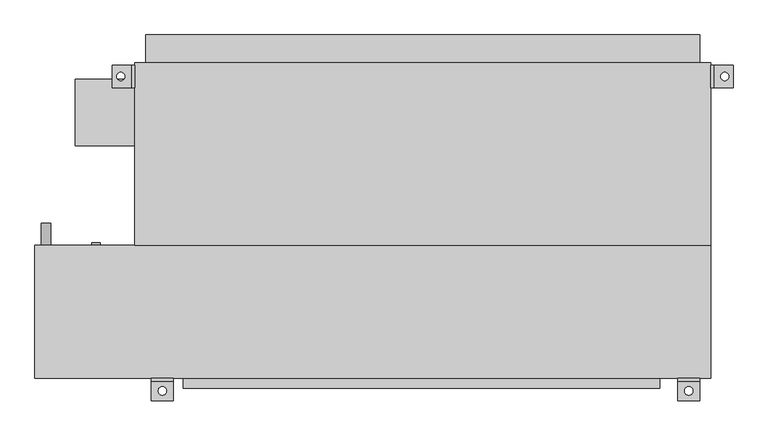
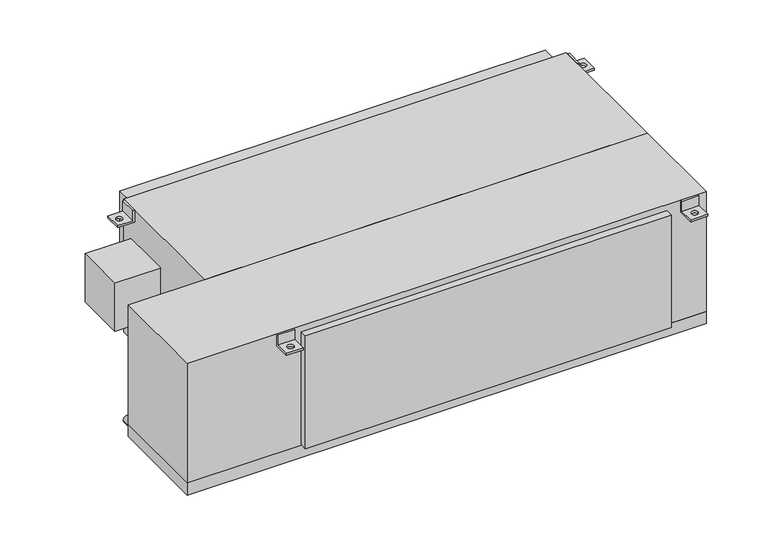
"""IFC4 building model written with IfcOpenShell, lengths in millimetres: proxy geometry, Concealed_High_Capacity_Horizontal_Fan_Coil_Unit_With_Plenum_-_42DCA_-_CARRIER_-_2-Pipe_Cool-EHeat_ValveEnclosure_LH_2022 : Size 18 - 277v/60Hz/1Ph - 6 Row 12.0kW."""

import ifcopenshell
import ifcopenshell.guid

model = None  # the IFC model being written
_history = None  # IfcOwnerHistory: only IFC2X3 demands one
_inside = {}  # id of a spatial element -> (the spatial element, [elements in it])
_under = {}  # id of a project, library or spatial element -> (it, [spatial elements below it])
_declared = {}  # id of a project -> (the project, [libraries it declares])
_typed = {}  # id of a type object -> (the type object, [elements of that type])
_made_of = {}  # id of a material, layer set ... -> (it, [elements and type objects made of it])


def new_model(schema):
    """Start an empty IFC model of exactly this schema.

    Asked for "IFC4X3", IfcOpenShell would pick the latest addendum, in which some entities
    have other attributes; the version numbers below select the first issue.
    IFC2X3 requires an IfcOwnerHistory on every rooted entity: one is made here for all.
    """
    global model, _history
    if schema == "IFC4X3":
        model = ifcopenshell.file(schema_version=(4, 3, 0, 0))
    else:
        model = ifcopenshell.file(schema=schema)
    _inside.clear()
    _under.clear()
    _declared.clear()
    _typed.clear()
    _made_of.clear()
    _history = None
    if model.schema == "IFC2X3":
        org = make("IfcOrganization", Name="unknown")
        user = make(
            "IfcPersonAndOrganization",
            ThePerson=make("IfcPerson", FamilyName="unknown"),
            TheOrganization=org,
        )
        app = make(
            "IfcApplication",
            ApplicationDeveloper=org,
            Version="unknown",
            ApplicationFullName="unknown",
            ApplicationIdentifier="unknown",
        )
        _history = make(
            "IfcOwnerHistory",
            OwningUser=user,
            OwningApplication=app,
            ChangeAction="ADDED",
            CreationDate=0,
        )
    return model


def make(cls, **values):
    """One entity of the class cls with the attributes given. An attribute that is None is left unset."""
    return model.create_entity(
        cls, **{name: value for name, value in values.items() if value is not None}
    )


def rooted(cls, **values):
    """An entity with a GlobalId (a new one), such as an element, a storey or a relation."""
    return make(cls, GlobalId=ifcopenshell.guid.new(), OwnerHistory=_history, **values)


def si_unit(unit_type, name, prefix=None):
    """IfcSIUnit, for example si_unit("LENGTHUNIT", "METRE", prefix="MILLI")."""
    return make("IfcSIUnit", UnitType=unit_type, Prefix=prefix, Name=name)


def assignment(units):
    """IfcUnitAssignment: the units of a project."""
    return None if units is None else make("IfcUnitAssignment", Units=units)


def point(xyz):
    """IfcCartesianPoint."""
    return None if xyz is None else make("IfcCartesianPoint", Coordinates=xyz)


def direction(xyz):
    """IfcDirection."""
    return None if xyz is None else make("IfcDirection", DirectionRatios=xyz)


def frame(location, z_axis=None, x_axis=None):
    """IfcAxis2Placement3D, a coordinate frame: its origin and axes. An axis left out is left unset."""
    return make(
        "IfcAxis2Placement3D",
        Location=point(location),
        Axis=direction(z_axis),
        RefDirection=direction(x_axis),
    )


def frame_2d(location, x_axis=None):
    """IfcAxis2Placement2D, a coordinate frame in the plane: its origin and x axis."""
    return make(
        "IfcAxis2Placement2D", Location=point(location), RefDirection=direction(x_axis)
    )


def origin():
    """The frame at (0, 0, 0) with its axes left unset."""
    return frame((0.0, 0.0, 0.0))


def place(relative_to, where):
    """IfcLocalPlacement: puts the frame where relative to a parent placement (None: the world)."""
    return make(
        "IfcLocalPlacement", PlacementRelTo=relative_to, RelativePlacement=where
    )


def context(
    kind, dimensions, precision=None, world=None, true_north=None, identifier=None
):
    """IfcGeometricRepresentationContext, for example the 3D "Model" context."""
    return make(
        "IfcGeometricRepresentationContext",
        ContextIdentifier=identifier,
        ContextType=kind,
        CoordinateSpaceDimension=dimensions,
        Precision=precision,
        WorldCoordinateSystem=world,
        TrueNorth=true_north,
    )


def project(units=None, contexts=None):
    """IfcProject with its units and contexts."""
    return rooted(
        "IfcProject",
        Name="project",
        RepresentationContexts=contexts,
        UnitsInContext=assignment(units),
    )


def spatial(cls, under=None, at=None, **own):
    """A site, building, storey or space (cls), placed at a placement, below another one or the project."""
    s = rooted(cls, ObjectPlacement=at, **own)
    if under is not None:
        _under.setdefault(under.id(), (under, []))[1].append(s)
    return s


def polyline(points):
    """IfcPolyline through the points."""
    return make("IfcPolyline", Points=[point(p) for p in points])


def circle_curve(where, radius):
    """IfcCircle in the frame where."""
    return make("IfcCircle", Position=where, Radius=radius)


def trimmed(basis, trim1, trim2, sense, master):
    """IfcTrimmedCurve: the piece of a basis curve between two trims."""
    return make(
        "IfcTrimmedCurve",
        BasisCurve=basis,
        Trim1=trim1,
        Trim2=trim2,
        SenseAgreement=sense,
        MasterRepresentation=master,
    )


def segment(curve, same_sense, transition):
    """IfcCompositeCurveSegment."""
    return make(
        "IfcCompositeCurveSegment",
        Transition=transition,
        SameSense=same_sense,
        ParentCurve=curve,
    )


def composite_curve(segments, self_intersect=None):
    """IfcCompositeCurve: segments joined end to end."""
    return make("IfcCompositeCurve", Segments=segments, SelfIntersect=self_intersect)


def outline(outer, holes=None, kind="AREA"):
    """IfcArbitraryClosedProfileDef: a profile drawn as a closed curve; with holes, ...WithVoids."""
    if holes is None:
        return make("IfcArbitraryClosedProfileDef", ProfileType=kind, OuterCurve=outer)
    return make(
        "IfcArbitraryProfileDefWithVoids",
        ProfileType=kind,
        OuterCurve=outer,
        InnerCurves=holes,
    )


def extrude(swept, where, along, depth):
    """IfcExtrudedAreaSolid: the profile swept, set in the frame where, extruded along a direction by depth."""
    return make(
        "IfcExtrudedAreaSolid",
        SweptArea=swept,
        Position=where,
        ExtrudedDirection=direction(along),
        Depth=depth,
    )


def shape(context_of_items, identifier, shape_type, items):
    """IfcShapeRepresentation: the items that make up one representation, for example the "Body"."""
    return make(
        "IfcShapeRepresentation",
        ContextOfItems=context_of_items,
        RepresentationIdentifier=identifier,
        RepresentationType=shape_type,
        Items=items,
    )


def source(mapping_origin, context_of_items, identifier, shape_type, items):
    """IfcRepresentationMap: a shape defined once, which mapped items show again and again."""
    return make(
        "IfcRepresentationMap",
        MappingOrigin=mapping_origin,
        MappedRepresentation=shape(context_of_items, identifier, shape_type, items),
    )


def transform(
    local_origin,
    x_axis=None,
    y_axis=None,
    z_axis=None,
    scale=None,
    scale2=None,
    scale3=None,
    uniform=True,
):
    """IfcCartesianTransformationOperator3D, or its non-uniform kind. x_axis, y_axis, z_axis: its Axis1, 2, 3."""
    if uniform:
        return make(
            "IfcCartesianTransformationOperator3D",
            Axis1=direction(x_axis),
            Axis2=direction(y_axis),
            LocalOrigin=point(local_origin),
            Scale=scale,
            Axis3=direction(z_axis),
        )
    return make(
        "IfcCartesianTransformationOperator3DnonUniform",
        Axis1=direction(x_axis),
        Axis2=direction(y_axis),
        LocalOrigin=point(local_origin),
        Scale=scale,
        Axis3=direction(z_axis),
        Scale2=scale2,
        Scale3=scale3,
    )


def mapped(mapping_source, mapping_target):
    """IfcMappedItem: shows the shape of a source again, moved by a transform."""
    return make(
        "IfcMappedItem", MappingSource=mapping_source, MappingTarget=mapping_target
    )


def made_of(thing, what):
    """Note that an element or type object is made of a material, layer set ...; save() writes the relation."""
    if what is not None:
        _made_of.setdefault(what.id(), (what, []))[1].append(thing)
    return thing


def element(
    cls,
    number,
    at=None,
    inside=None,
    cuts=None,
    type_object=None,
    material=None,
    context=None,
    identifier="Body",
    shape_type=None,
    held_by="IfcProductDefinitionShape",
    body=None,
    shapes=None,
    **own,
):
    """One element of the class cls, such as IfcWall. Its Tag is "e" and its number.

    at: its placement. inside: the storey or other place that contains it. cuts: it is an
    opening in that element (IfcRelVoidsElement). A single representation is given by context,
    identifier, shape_type and body (its items); several are given by shapes. held_by: the class
    of the entity that holds the representations. save() writes the other relations.
    """
    e = rooted(cls, Tag="e%d" % number, ObjectPlacement=at, **own)
    if body is not None:
        shapes = [shape(context, identifier, shape_type, body)]
    if shapes is not None:
        e.Representation = make(held_by, Representations=shapes)
    if inside is not None:
        _inside.setdefault(inside.id(), (inside, []))[1].append(e)
    if cuts is not None:
        rooted(
            "IfcRelVoidsElement", RelatingBuildingElement=cuts, RelatedOpeningElement=e
        )
    if type_object is not None:
        _typed.setdefault(type_object.id(), (type_object, []))[1].append(e)
    return made_of(e, material)


def aggregate(whole, parts):
    """IfcRelAggregates: a whole, such as a stair, and the parts it consists of."""
    return rooted("IfcRelAggregates", RelatingObject=whole, RelatedObjects=parts)


def save(model, path):
    """Write the relations noted so far, then the file.

    IfcRelAggregates (storeys below a building ...), IfcRelContainedInSpatialStructure (elements
    in a storey), IfcRelDefinesByType, IfcRelAssociatesMaterial and IfcRelDeclares: one each for
    every whole, place, type object, material and project.
    """
    for whole, parts in _under.values():
        aggregate(whole, parts)
    for where, things in _inside.values():
        rooted(
            "IfcRelContainedInSpatialStructure",
            RelatedElements=things,
            RelatingStructure=where,
        )
    for kind, things in _typed.values():
        rooted("IfcRelDefinesByType", RelatedObjects=things, RelatingType=kind)
    for what, things in _made_of.values():
        rooted("IfcRelAssociatesMaterial", RelatedObjects=things, RelatingMaterial=what)
    for by, libraries in _declared.values():
        rooted("IfcRelDeclares", RelatingContext=by, RelatedDefinitions=libraries)
    model.write(path)


def plane_surface(at):
    """IfcPlane: the flat surface through the origin of the frame at, square to its z axis."""
    return make("IfcPlane", Position=at)


def revolved_surface(curve, axis_point, axis_direction):
    """IfcSurfaceOfRevolution: the curve turned about the line through axis_point along axis_direction."""
    return make(
        "IfcSurfaceOfRevolution",
        SweptCurve=make("IfcArbitraryOpenProfileDef", ProfileType="CURVE", Curve=curve),
        AxisPosition=make("IfcAxis1Placement", Location=point(axis_point), Axis=direction(axis_direction)),
    )


def advanced_brep(points, edges, surfaces, faces):
    """IfcAdvancedBrep: a solid bounded by faces that lie on surfaces and meet in shared edges.

    An edge is (start, end): straight between two places in points (the first is 0);
    or (start, end, curve); or (start, end, curve, False) where it runs against its curve.
    A face is (place in surfaces, loops), or (place, loops, False) where it looks against
    its surface's normal. A loop lists edges by number (the first is 1), with a minus sign
    where the edge is run from its end to its start. The first loop is the outer one.
    """
    corners = [point(p) for p in points]
    vertices = [make("IfcVertexPoint", VertexGeometry=c) for c in corners]
    made = []
    for start, end, *more in edges:
        made.append(
            make(
                "IfcEdgeCurve",
                EdgeStart=vertices[start],
                EdgeEnd=vertices[end],
                EdgeGeometry=more[0] if more else make("IfcPolyline", Points=[corners[start], corners[end]]),
                SameSense=more[1] if len(more) > 1 else True,
            )
        )
    hull = []
    for where, loops, *sense in faces:
        bounds = []
        for j, loop in enumerate(loops):
            ring = [make("IfcOrientedEdge", EdgeElement=made[abs(k) - 1], Orientation=k > 0) for k in loop]
            bounds.append(
                make(
                    "IfcFaceOuterBound" if j == 0 else "IfcFaceBound",
                    Bound=make("IfcEdgeLoop", EdgeList=ring),
                    Orientation=True,
                )
            )
        hull.append(make("IfcAdvancedFace", Bounds=bounds, FaceSurface=surfaces[where], SameSense=sense[0] if sense else True))
    return make("IfcAdvancedBrep", Outer=make("IfcClosedShell", CfsFaces=hull))


def mechanical_equipment_110eea27(model_context):
    return source(origin(), model_context, "Body", "SolidModel", [
        advanced_brep(
        [(787.4, -390.525, 0.0), (787.4, -396.875, 0.0), (787.4, -396.875, -31.75), (787.4, -441.325, -31.75), (787.4, -441.325, -38.1), (787.4, -390.525, -38.1), (736.6, -390.525, 0.0), (736.6, -390.525, -38.1), (736.6, -441.325, -38.1), (736.6, -441.325, -31.75), (736.6, -396.875, -31.75), (736.6, -396.875, 0.0), (752.475, -419.1, -31.75), (771.525, -419.1, -31.75), (771.525, -419.1, -38.1), (752.475, -419.1, -38.1)],
        [
            (0, 1),
            (1, 2),
            (2, 3),
            (3, 4),
            (4, 5),
            (5, 0),
            (6, 7),
            (7, 8),
            (8, 9),
            (9, 10),
            (10, 11),
            (11, 6),
            (0, 6),
            (11, 1),
            (10, 2),
            (9, 3),
            (12, 13, circle_curve(frame((762.0, -419.1, -31.75), z_axis=(0.0, 0.0, -1.0), x_axis=(1.0, 0.0, 0.0)), 9.525)),
            (13, 12, circle_curve(frame((762.0, -419.1, -31.75), z_axis=(0.0, 0.0, -1.0), x_axis=(1.0, 0.0, 0.0)), 9.525)),
            (8, 4),
            (7, 5),
            (14, 15, circle_curve(frame((762.0, -419.1, -38.1), z_axis=(0.0, 0.0, 1.0), x_axis=(1.0, 0.0, 0.0)), 9.525)),
            (15, 14, circle_curve(frame((762.0, -419.1, -38.1), z_axis=(0.0, 0.0, 1.0), x_axis=(1.0, 0.0, 0.0)), 9.525)),
            (12, 15),
            (14, 13),
        ],
        [
            plane_surface(frame((787.4, -396.875, 0.0), z_axis=(1.0, 0.0, 0.0), x_axis=(0.0, -1.0, 0.0))),
            plane_surface(frame((736.6, -396.875, 0.0), z_axis=(-1.0, 0.0, 0.0), x_axis=(0.0, 1.0, 0.0))),
            plane_surface(frame((787.4, -390.525, 0.0), z_axis=(0.0, 0.0, 1.0), x_axis=(-1.0, 0.0, 0.0))),
            plane_surface(frame((787.4, -396.875, 0.0), z_axis=(0.0, -1.0, 0.0), x_axis=(-1.0, 0.0, 0.0))),
            plane_surface(frame((787.4, -396.875, -31.75), z_axis=(0.0, 0.0, 1.0), x_axis=(-1.0, 0.0, 0.0))),
            plane_surface(frame((787.4, -441.325, -31.75), z_axis=(0.0, -1.0, 0.0), x_axis=(-1.0, 0.0, 0.0))),
            plane_surface(frame((787.4, -441.325, -38.1), z_axis=(0.0, 0.0, -1.0), x_axis=(-1.0, 0.0, 0.0))),
            plane_surface(frame((787.4, -390.525, -38.1), z_axis=(0.0, 1.0, 0.0), x_axis=(-1.0, 0.0, 0.0))),
            revolved_surface(polyline([(771.525, -419.1, -38.1), (771.525, -419.1, -31.75)]), (762.0, -419.1, -31.75), (0.0, 0.0, -1.0)),
        ],
        [
            (0, [[1, 2, 3, 4, 5, 6]]),
            (1, [[7, 8, 9, 10, 11, 12]]),
            (2, [[-1, 13, -12, 14]]),
            (3, [[-2, -14, -11, 15]]),
            (4, [[-3, -15, -10, 16], [17, 18]]),
            (5, [[-4, -16, -9, 19]]),
            (6, [[-5, -19, -8, 20], [21, 22]]),
            (7, [[-6, -20, -7, -13]]),
            (8, [[23, -21, 24, -17]]),
            (8, [[-23, -18, -24, -22]]),
        ],
    ),
        advanced_brep(
        [(-419.1, -390.525, -38.1), (-419.1, -390.525, 0.0), (-419.1, -396.875, 0.0), (-419.1, -396.875, -31.75), (-419.1, -441.325, -31.75), (-419.1, -441.325, -38.1), (-469.9, -390.525, -38.1), (-469.9, -441.325, -38.1), (-469.9, -441.325, -31.75), (-469.9, -396.875, -31.75), (-469.9, -396.875, 0.0), (-469.9, -390.525, 0.0), (-454.025, -419.1, -31.75), (-434.975, -419.1, -31.75), (-434.975, -419.1, -38.1), (-454.025, -419.1, -38.1)],
        [
            (0, 1),
            (1, 2),
            (2, 3),
            (3, 4),
            (4, 5),
            (5, 0),
            (6, 7),
            (7, 8),
            (8, 9),
            (9, 10),
            (10, 11),
            (11, 6),
            (0, 6),
            (11, 1),
            (10, 2),
            (9, 3),
            (8, 4),
            (12, 13, circle_curve(frame((-444.5, -419.1, -31.75), z_axis=(0.0, 0.0, -1.0), x_axis=(1.0, 0.0, 0.0)), 9.525)),
            (13, 12, circle_curve(frame((-444.5, -419.1, -31.75), z_axis=(0.0, 0.0, -1.0), x_axis=(1.0, 0.0, 0.0)), 9.525)),
            (7, 5),
            (14, 15, circle_curve(frame((-444.5, -419.1, -38.1), z_axis=(0.0, 0.0, 1.0), x_axis=(1.0, 0.0, 0.0)), 9.525)),
            (15, 14, circle_curve(frame((-444.5, -419.1, -38.1), z_axis=(0.0, 0.0, 1.0), x_axis=(1.0, 0.0, 0.0)), 9.525)),
            (12, 15),
            (14, 13),
        ],
        [
            plane_surface(frame((-419.1, -390.525, -38.1), z_axis=(1.0, 0.0, 0.0), x_axis=(0.0, 0.0, 1.0))),
            plane_surface(frame((-469.9, -390.525, -38.1), z_axis=(-1.0, 0.0, 0.0), x_axis=(0.0, 0.0, -1.0))),
            plane_surface(frame((-419.1, -390.525, -38.1), z_axis=(0.0, 1.0, 0.0), x_axis=(-1.0, 0.0, 0.0))),
            plane_surface(frame((-419.1, -390.525, 0.0), z_axis=(0.0, 0.0, 1.0), x_axis=(-1.0, 0.0, 0.0))),
            plane_surface(frame((-419.1, -396.875, 0.0), z_axis=(0.0, -1.0, 0.0), x_axis=(-1.0, 0.0, 0.0))),
            plane_surface(frame((-419.1, -396.875, -31.75), z_axis=(0.0, 0.0, 1.0), x_axis=(-1.0, 0.0, 0.0))),
            plane_surface(frame((-419.1, -441.325, -31.75), z_axis=(0.0, -1.0, 0.0), x_axis=(-1.0, 0.0, 0.0))),
            plane_surface(frame((-419.1, -441.325, -38.1), z_axis=(0.0, 0.0, -1.0), x_axis=(-1.0, 0.0, 0.0))),
            revolved_surface(polyline([(-434.975, -419.1, -38.1), (-434.975, -419.1, -31.75)]), (-444.5, -419.1, -31.75), (0.0, 0.0, -1.0)),
        ],
        [
            (0, [[1, 2, 3, 4, 5, 6]]),
            (1, [[7, 8, 9, 10, 11, 12]]),
            (2, [[-1, 13, -12, 14]]),
            (3, [[-2, -14, -11, 15]]),
            (4, [[-3, -15, -10, 16]]),
            (5, [[-4, -16, -9, 17], [18, 19]]),
            (6, [[-5, -17, -8, 20]]),
            (7, [[-6, -20, -7, -13], [21, 22]]),
            (8, [[23, -21, 24, -18]]),
            (8, [[-23, -19, -24, -22]]),
        ],
    ),
        extrude(outline(composite_curve([segment(trimmed(circle_curve(frame_2d((-400.05, -711.2)), 11.1125), [point((-400.05, -722.3125))], [point((-400.05, -700.0875))], False, "CARTESIAN"), True, "CONTINUOUS"), segment(trimmed(circle_curve(frame_2d((-400.05, -711.2)), 11.1125), [point((-400.05, -700.0875))], [point((-400.05, -722.3125))], False, "CARTESIAN"), True, "CONTINUOUS")], self_intersect=False)), frame((0.0, -85.725, 0.0), z_axis=(0.0, 1.0, 0.0), x_axis=(0.0, 0.0, 1.0)), (0.0, 0.0, 1.0), 50.8),
        extrude(outline(composite_curve([segment(trimmed(circle_curve(frame_2d((-44.45, -596.9)), 9.525), [point((-44.45, -606.425))], [point((-44.45, -587.375))], False, "CARTESIAN"), True, "CONTINUOUS"), segment(trimmed(circle_curve(frame_2d((-44.45, -596.9)), 9.525), [point((-44.45, -587.375))], [point((-44.45, -606.425))], False, "CARTESIAN"), True, "CONTINUOUS")], self_intersect=False)), frame((0.0, -85.725, 0.0), z_axis=(0.0, 1.0, 0.0), x_axis=(0.0, 0.0, 1.0)), (0.0, 0.0, 1.0), 6.35),
        extrude(outline(composite_curve([segment(trimmed(circle_curve(frame_2d((-276.225, -596.9)), 9.525), [point((-276.225, -606.425))], [point((-276.225, -587.375))], False, "CARTESIAN"), True, "CONTINUOUS"), segment(trimmed(circle_curve(frame_2d((-276.225, -596.9)), 9.525), [point((-276.225, -587.375))], [point((-276.225, -606.425))], False, "CARTESIAN"), True, "CONTINUOUS")], self_intersect=False)), frame((0.0, -85.725, 0.0), z_axis=(0.0, 1.0, 0.0), x_axis=(0.0, 0.0, 1.0)), (0.0, 0.0, 1.0), 6.35),
        advanced_brep(
        [(-508.0, 327.025, -38.1), (-558.8, 327.025, -38.1), (-558.8, 327.025, -31.75), (-514.35, 327.025, -31.75), (-514.35, 327.025, 0.0), (-508.0, 327.025, 0.0), (-508.0, 276.225, -38.1), (-508.0, 276.225, 0.0), (-514.35, 276.225, 0.0), (-514.35, 276.225, -31.75), (-558.8, 276.225, -31.75), (-558.8, 276.225, -38.1), (-539.75, 292.1, -38.1), (-539.75, 311.15, -38.1), (-539.75, 311.15, -31.75), (-539.75, 292.1, -31.75)],
        [
            (0, 1),
            (1, 2),
            (2, 3),
            (3, 4),
            (4, 5),
            (5, 0),
            (6, 7),
            (7, 8),
            (8, 9),
            (9, 10),
            (10, 11),
            (11, 6),
            (0, 6),
            (11, 1),
            (12, 13, circle_curve(frame((-539.75, 301.625, -38.1), z_axis=(0.0, 0.0, 1.0), x_axis=(0.0, -1.0, 0.0)), 9.525)),
            (13, 12, circle_curve(frame((-539.75, 301.625, -38.1), z_axis=(0.0, 0.0, 1.0), x_axis=(0.0, -1.0, 0.0)), 9.525)),
            (10, 2),
            (9, 3),
            (14, 15, circle_curve(frame((-539.75, 301.625, -31.75), z_axis=(0.0, 0.0, -1.0), x_axis=(0.0, -1.0, 0.0)), 9.525)),
            (15, 14, circle_curve(frame((-539.75, 301.625, -31.75), z_axis=(0.0, 0.0, -1.0), x_axis=(0.0, -1.0, 0.0)), 9.525)),
            (8, 4),
            (7, 5),
            (14, 13),
            (12, 15),
        ],
        [
            plane_surface(frame((-508.0, 327.025, -38.1), z_axis=(0.0, 1.0, 0.0), x_axis=(-1.0, 0.0, 0.0))),
            plane_surface(frame((-508.0, 276.225, -38.1), z_axis=(0.0, -1.0, 0.0), x_axis=(1.0, 0.0, 0.0))),
            plane_surface(frame((-508.0, 327.025, -38.1), z_axis=(0.0, 0.0, -1.0), x_axis=(0.0, -1.0, 0.0))),
            plane_surface(frame((-558.8, 327.025, -38.1), z_axis=(-1.0, 0.0, 0.0), x_axis=(0.0, -1.0, 0.0))),
            plane_surface(frame((-558.8, 327.025, -31.75), z_axis=(0.0, 0.0, 1.0), x_axis=(0.0, -1.0, 0.0))),
            plane_surface(frame((-514.35, 327.025, -31.75), z_axis=(-1.0, 0.0, 0.0), x_axis=(0.0, -1.0, 0.0))),
            plane_surface(frame((-514.35, 327.025, 0.0), z_axis=(0.0, 0.0, 1.0), x_axis=(0.0, -1.0, 0.0))),
            plane_surface(frame((-508.0, 327.025, 0.0), z_axis=(1.0, 0.0, 0.0), x_axis=(0.0, -1.0, 0.0))),
            revolved_surface(polyline([(-539.75, 292.1, -38.1), (-539.75, 292.1, -31.75)]), (-539.75, 301.625, -31.75), (0.0, 0.0, -1.0)),
        ],
        [
            (0, [[1, 2, 3, 4, 5, 6]]),
            (1, [[7, 8, 9, 10, 11, 12]]),
            (2, [[-1, 13, -12, 14], [15, 16]]),
            (3, [[-2, -14, -11, 17]]),
            (4, [[-3, -17, -10, 18], [19, 20]]),
            (5, [[-4, -18, -9, 21]]),
            (6, [[-5, -21, -8, 22]]),
            (7, [[-6, -22, -7, -13]]),
            (8, [[23, -15, 24, -19]]),
            (8, [[-23, -20, -24, -16]]),
        ],
    ),
        advanced_brep(
        [(812.8, 327.025, -38.1), (812.8, 327.025, 0.0), (819.15, 327.025, 0.0), (819.15, 327.025, -31.75), (863.6, 327.025, -31.75), (863.6, 327.025, -38.1), (812.8, 276.225, -38.1), (863.6, 276.225, -38.1), (863.6, 276.225, -31.75), (819.15, 276.225, -31.75), (819.15, 276.225, 0.0), (812.8, 276.225, 0.0), (844.55, 311.15, -31.75), (844.55, 292.1, -31.75), (844.55, 292.1, -38.1), (844.55, 311.15, -38.1)],
        [
            (0, 1),
            (1, 2),
            (2, 3),
            (3, 4),
            (4, 5),
            (5, 0),
            (6, 7),
            (7, 8),
            (8, 9),
            (9, 10),
            (10, 11),
            (11, 6),
            (0, 6),
            (11, 1),
            (10, 2),
            (9, 3),
            (8, 4),
            (12, 13, circle_curve(frame((844.55, 301.625, -31.75), z_axis=(0.0, 0.0, -1.0), x_axis=(0.0, -1.0, 0.0)), 9.525)),
            (13, 12, circle_curve(frame((844.55, 301.625, -31.75), z_axis=(0.0, 0.0, -1.0), x_axis=(0.0, -1.0, 0.0)), 9.525)),
            (7, 5),
            (14, 15, circle_curve(frame((844.55, 301.625, -38.1), z_axis=(0.0, 0.0, 1.0), x_axis=(0.0, -1.0, 0.0)), 9.525)),
            (15, 14, circle_curve(frame((844.55, 301.625, -38.1), z_axis=(0.0, 0.0, 1.0), x_axis=(0.0, -1.0, 0.0)), 9.525)),
            (12, 15),
            (14, 13),
        ],
        [
            plane_surface(frame((-508.0, 327.025, -38.1), z_axis=(0.0, 1.0, 0.0), x_axis=(-1.0, 0.0, 0.0))),
            plane_surface(frame((-508.0, 276.225, -38.1), z_axis=(0.0, -1.0, 0.0), x_axis=(1.0, 0.0, 0.0))),
            plane_surface(frame((812.8, 327.025, -38.1), z_axis=(-1.0, 0.0, 0.0), x_axis=(0.0, -1.0, 0.0))),
            plane_surface(frame((812.8, 327.025, 0.0), z_axis=(0.0, 0.0, 1.0), x_axis=(0.0, -1.0, 0.0))),
            plane_surface(frame((819.15, 327.025, 0.0), z_axis=(1.0, 0.0, 0.0), x_axis=(0.0, -1.0, 0.0))),
            plane_surface(frame((819.15, 327.025, -31.75), z_axis=(0.0, 0.0, 1.0), x_axis=(0.0, -1.0, 0.0))),
            plane_surface(frame((863.6, 327.025, -31.75), z_axis=(1.0, 0.0, 0.0), x_axis=(0.0, -1.0, 0.0))),
            plane_surface(frame((863.6, 327.025, -38.1), z_axis=(0.0, 0.0, -1.0), x_axis=(0.0, -1.0, 0.0))),
            revolved_surface(polyline([(844.55, 292.1, -38.1), (844.55, 292.1, -31.75)]), (844.55, 301.625, -31.75), (0.0, 0.0, -1.0)),
        ],
        [
            (0, [[1, 2, 3, 4, 5, 6]]),
            (1, [[7, 8, 9, 10, 11, 12]]),
            (2, [[-1, 13, -12, 14]]),
            (3, [[-2, -14, -11, 15]]),
            (4, [[-3, -15, -10, 16]]),
            (5, [[-4, -16, -9, 17], [18, 19]]),
            (6, [[-5, -17, -8, 20]]),
            (7, [[-6, -20, -7, -13], [21, 22]]),
            (8, [[23, -21, 24, -18]]),
            (8, [[-23, -19, -24, -22]]),
        ],
    ),
        extrude(outline(polyline([(-482.6, 396.875), (787.4, 396.875), (787.4, 333.375), (-482.6, 333.375), (-482.6, 396.875)])), frame((0.0, 0.0, -377.825), z_axis=(0.0, 0.0, 1.0), x_axis=(1.0, 0.0, 0.0)), (0.0, 0.0, 1.0), 355.6),
        extrude(outline(polyline([(-644.525, 142.875), (-644.525, 295.275), (-508.0, 295.275), (-508.0, 142.875), (-644.525, 142.875)])), frame((0.0, 0.0, -254.0), z_axis=(0.0, 0.0, 1.0), x_axis=(1.0, 0.0, 0.0)), (0.0, 0.0, 1.0), 152.4),
        extrude(outline(polyline([(695.325, -412.75), (-396.875, -412.75), (-396.875, -390.525), (695.325, -390.525), (695.325, -412.75)])), frame((0.0, 0.0, -374.65), z_axis=(0.0, 0.0, 1.0), x_axis=(1.0, 0.0, 0.0)), (0.0, 0.0, 1.0), 355.6),
        extrude(outline(polyline([(812.8, -85.725), (-508.0, -85.725), (-508.0, 333.375), (812.8, 333.375), (812.8, -85.725)])), frame((0.0, 0.0, -419.1), z_axis=(0.0, 0.0, 1.0), x_axis=(1.0, 0.0, 0.0)), (0.0, 0.0, 1.0), 419.1),
        extrude(outline(polyline([(812.8, -85.725), (812.8, -390.525), (-736.6, -390.525), (-736.6, -85.725), (812.8, -85.725)])), frame((0.0, 0.0, -377.825), z_axis=(0.0, 0.0, 1.0), x_axis=(1.0, 0.0, 0.0)), (0.0, 0.0, 1.0), 377.825),
        extrude(outline(polyline([(812.8, -85.725), (812.8, -390.525), (-736.6, -390.525), (-736.6, -85.725), (812.8, -85.725)])), frame((0.0, 0.0, -415.925), z_axis=(0.0, 0.0, 1.0), x_axis=(1.0, 0.0, 0.0)), (0.0, 0.0, 1.0), 38.1),
    ])


if __name__ == "__main__":
    model = new_model("IFC4")
    model_context = context("Model", 3, world=origin())
    ifc_project = project(units=[si_unit("LENGTHUNIT", "METRE", prefix="MILLI")], contexts=[model_context])
    site = spatial("IfcSite", under=ifc_project)
    building = spatial("IfcBuilding", under=site)
    placement = place(None, origin())
    mechanical_equipment_shape = mechanical_equipment_110eea27(model_context)
    element("IfcBuildingElementProxy", 1, Name="Concealed_High_Capacity_Horizontal_Fan_Coil_Unit_With_Plenum_-_42DCA_-_CARRIER_-_2-Pipe_Cool-EHeat_ValveEnclosure_LH_2022 : Size 18 - 277v/60Hz/1Ph - 6 Row 12.0kW", ObjectType="Concealed_High_Capacity_Horizontal_Fan_Coil_Unit_With_Plenum_-_42DCA_-_CARRIER_-_2-Pipe_Cool-EHeat_ValveEnclosure_LH_2022 : Size 18 - 277v/60Hz/1Ph - 6 Row 12.0kW", at=placement, inside=building, context=model_context, shape_type="MappedRepresentation", body=[
        mapped(mechanical_equipment_shape, transform((0.0, 0.0, 0.0), x_axis=(1.0, 0.0, 0.0), y_axis=(0.0, 1.0, 0.0), z_axis=(0.0, 0.0, 1.0))),
    ])
    save(model, "model.ifc")
